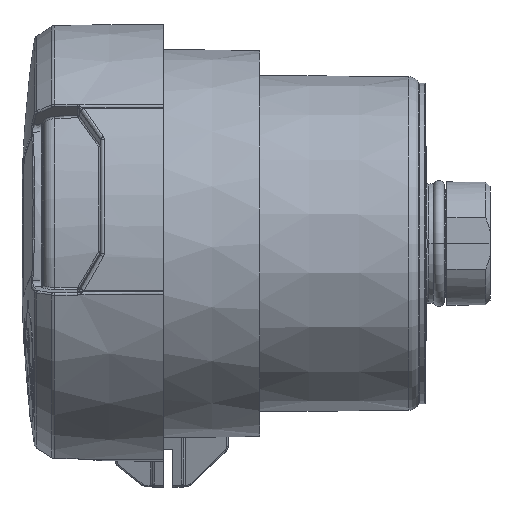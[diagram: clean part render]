
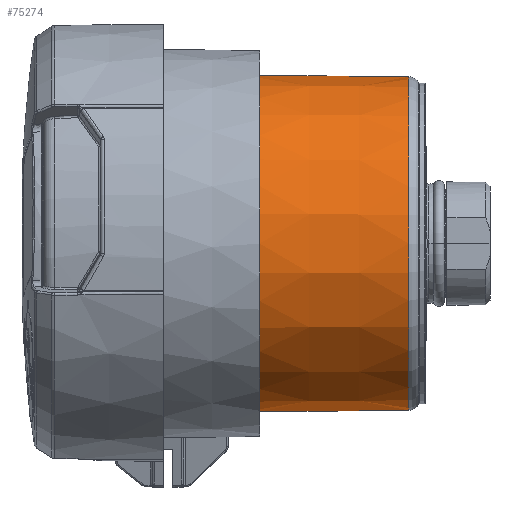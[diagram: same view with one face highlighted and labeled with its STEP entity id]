
A CAD part, left-side view. The second image highlights one B-rep face of the part: STEP entity #75274.
In plain terms, the highlighted conical face has half-angle 0.5 degrees and reference radius 45.224 mm.
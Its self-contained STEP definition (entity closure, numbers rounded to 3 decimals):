
#21980=CARTESIAN_POINT('',(0.,-62.,0.));
#21981=DIRECTION('',(0.,-1.,0.));
#21982=DIRECTION('',(0.,0.,1.));
#21983=AXIS2_PLACEMENT_3D('',#21980,#21981,#21982);
#22004=DIRECTION('',(0.,-1.,-0.009));
#22005=VECTOR('',#22004,40.212);
#22006=CARTESIAN_POINT('',(0.,-62.,45.399));
#22007=LINE('',#22006,#22005);
#22011=CARTESIAN_POINT('',(0.,-102.21,0.));
#22012=DIRECTION('',(0.,-1.,0.));
#22013=DIRECTION('',(0.,0.,1.));
#22014=AXIS2_PLACEMENT_3D('',#22011,#22012,#22013);
#22019=DIRECTION('',(0.,1.,-0.009));
#22020=VECTOR('',#22019,40.212);
#22021=CARTESIAN_POINT('',(0.,-102.21,
-45.048));
#22022=LINE('',#22021,#22020);
#38490=CARTESIAN_POINT('',(0.,-102.21,-45.048));
#38491=CARTESIAN_POINT('',(0.,-102.21,45.048));
#38492=VERTEX_POINT('',#38490);
#38493=VERTEX_POINT('',#38491);
#40448=CARTESIAN_POINT('',(0.,-62.,-45.399));
#40449=VERTEX_POINT('',#40448);
#40450=CARTESIAN_POINT('',(0.,-62.,45.399));
#40451=VERTEX_POINT('',#40450);
#75263=CARTESIAN_POINT('',(0.,-82.105,0.));
#75264=DIRECTION('',(0.,1.,0.));
#75265=DIRECTION('',(0.,0.,-1.));
#75266=AXIS2_PLACEMENT_3D('',#75263,#75264,#75265);
#75267=CONICAL_SURFACE('',#75266,45.224,0.5);
#75268=ORIENTED_EDGE('',*,*,#75258,.F.);
#75269=ORIENTED_EDGE('',*,*,#75241,.T.);
#75270=ORIENTED_EDGE('',*,*,#75198,.T.);
#75271=ORIENTED_EDGE('',*,*,#75238,.T.);
#75272=EDGE_LOOP('',(#75268,#75269,#75270,#75271));
#75273=FACE_OUTER_BOUND('',#75272,.F.);
#21984=CIRCLE('',#21983,45.399);
#22015=CIRCLE('',#22014,45.048);
#75198=EDGE_CURVE('',#38493,#38492,#22015,.T.);
#75238=EDGE_CURVE('',#38492,#40449,#22022,.T.);
#75241=EDGE_CURVE('',#40451,#38493,#22007,.T.);
#75258=EDGE_CURVE('',#40451,#40449,#21984,.T.);
#75274=ADVANCED_FACE('',(#75273),#75267,.T.);
